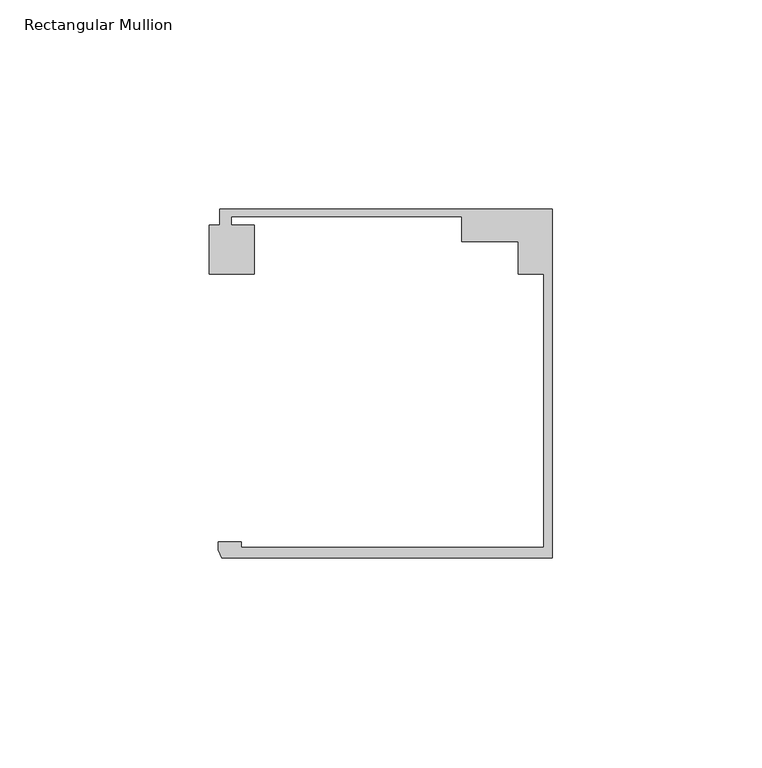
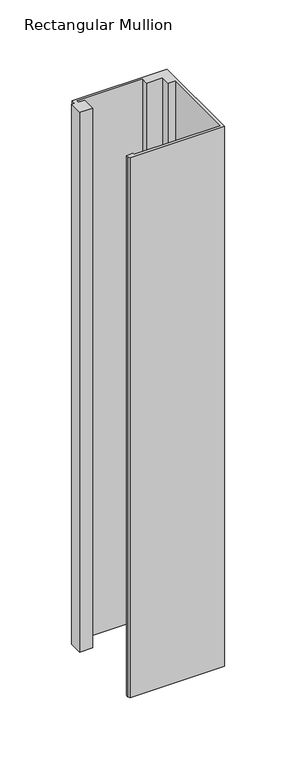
"""IFC4 building model written with IfcOpenShell, lengths in millimetres: member geometry, Rectangular Mullion : Danpal_Airpt_End-Mullion_B2."""

from ifc_helpers import new_model, si_unit, frame, origin, place, context, project, spatial, polyline, outline, extrude, source, transform, mapped, element, save


def rectangular_mullion_a8516909(model_context):
    return source(origin(), model_context, "Body", "SweptSolid", [
        extrude(outline(polyline([(-2.0000001, -74.9940824), (-2.0000001, -9.7188964), (-8.1, -9.7188964), (-8.1, -1.8818054), (-21.5478166, -1.8818054), (-21.5478166, 4.0051512), (-76.6478166, 4.0051512), (-76.6478166, 2.0051513), (-71.1433532, 2.0051513), (-71.1433532, -9.6875514), (-81.8592324, -9.6875514), (-81.8592324, 2.0051513), (-79.3474874, 2.0051513), (-79.3474874, 5.8051514), (0.0, 5.8051514), (0.0, -77.4940825), (-78.8515009, -77.4940825), (-79.7784606, -75.5472671), (-79.7784606, -73.6940824), (-74.2474668, -73.6940824), (-74.2474668, -74.9940824), (-2.0000001, -74.9940824)])), frame((0.0, 0.0, -476.2231211), z_axis=(0.0, 0.0, 1.0), x_axis=(1.0, 0.0, 0.0)), (0.0, 0.0, 1.0), 476.2231211),
    ])


if __name__ == "__main__":
    model = new_model("IFC4")
    model_context = context("Model", 3, world=origin())
    ifc_project = project(units=[si_unit("LENGTHUNIT", "METRE", prefix="MILLI")], contexts=[model_context])
    site = spatial("IfcSite", under=ifc_project)
    building = spatial("IfcBuilding", under=site)
    placement = place(None, origin())
    rectangular_mullion_shape = rectangular_mullion_a8516909(model_context)
    element("IfcMember", 1, ObjectType="Rectangular Mullion : Danpal_Airpt_End-Mullion_B2", at=placement, inside=building, context=model_context, shape_type="MappedRepresentation", body=[
        mapped(rectangular_mullion_shape, transform((0.0, 0.0, 0.0), x_axis=(1.0, 0.0, 0.0), y_axis=(0.0, 1.0, 0.0), z_axis=(0.0, 0.0, 1.0))),
    ])
    save(model, "model.ifc")
